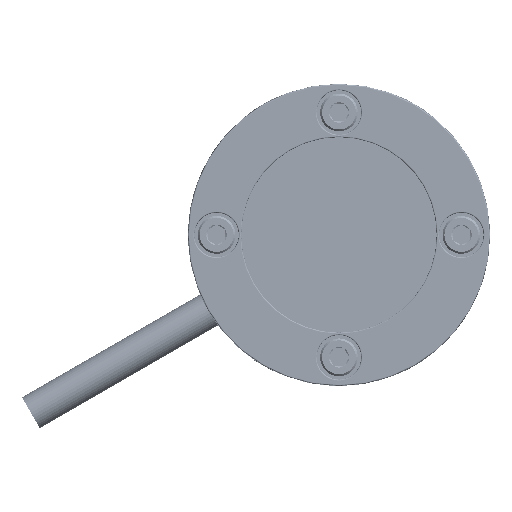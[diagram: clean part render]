
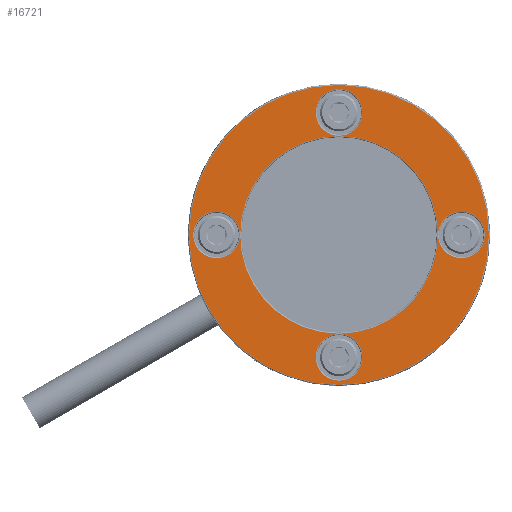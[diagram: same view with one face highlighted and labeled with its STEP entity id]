
A CAD part, left-side view. The second image highlights one B-rep face of the part: STEP entity #16721.
In plain terms, the highlighted planar face has unit normal (-1, 0, 0).
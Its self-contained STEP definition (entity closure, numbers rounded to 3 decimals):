
#1762=FACE_BOUND('',#2999,.T.);
#1763=FACE_BOUND('',#3000,.T.);
#1764=FACE_BOUND('',#3001,.T.);
#1765=FACE_BOUND('',#3002,.T.);
#1766=FACE_BOUND('',#3003,.T.);
#1824=PLANE('',#17884);
#1999=FACE_OUTER_BOUND('',#2998,.T.);
#2998=EDGE_LOOP('',(#10741));
#2999=EDGE_LOOP('',(#10742));
#3000=EDGE_LOOP('',(#10743));
#3001=EDGE_LOOP('',(#10744));
#3002=EDGE_LOOP('',(#10745));
#3003=EDGE_LOOP('',(#10746));
#5737=CIRCLE('',#17883,33.746);
#5738=CIRCLE('',#17885,5.254);
#5739=CIRCLE('',#17886,5.254);
#5740=CIRCLE('',#17887,22.254);
#5741=CIRCLE('',#17888,5.254);
#5742=CIRCLE('',#17889,5.254);
#6145=VERTEX_POINT('',#23261);
#6146=VERTEX_POINT('',#23265);
#6147=VERTEX_POINT('',#23267);
#6148=VERTEX_POINT('',#23269);
#6149=VERTEX_POINT('',#23271);
#6150=VERTEX_POINT('',#23273);
#7953=EDGE_CURVE('',#6145,#6145,#5737,.T.);
#7954=EDGE_CURVE('',#6146,#6146,#5738,.T.);
#7955=EDGE_CURVE('',#6147,#6147,#5739,.T.);
#7956=EDGE_CURVE('',#6148,#6148,#5740,.T.);
#7957=EDGE_CURVE('',#6149,#6149,#5741,.T.);
#7958=EDGE_CURVE('',#6150,#6150,#5742,.T.);
#10741=ORIENTED_EDGE('',*,*,#7953,.F.);
#10742=ORIENTED_EDGE('',*,*,#7954,.F.);
#10743=ORIENTED_EDGE('',*,*,#7955,.F.);
#10744=ORIENTED_EDGE('',*,*,#7956,.F.);
#10745=ORIENTED_EDGE('',*,*,#7957,.F.);
#10746=ORIENTED_EDGE('',*,*,#7958,.F.);
#16721=ADVANCED_FACE('',(#1999,#1762,#1763,#1764,#1765,#1766),#1824,.F.);
#17883=AXIS2_PLACEMENT_3D('',#23263,#19375,#19376);
#17884=AXIS2_PLACEMENT_3D('',#23264,#19377,#19378);
#17885=AXIS2_PLACEMENT_3D('',#23266,#19379,#19380);
#17886=AXIS2_PLACEMENT_3D('',#23268,#19381,#19382);
#17887=AXIS2_PLACEMENT_3D('',#23270,#19383,#19384);
#17888=AXIS2_PLACEMENT_3D('',#23272,#19385,#19386);
#17889=AXIS2_PLACEMENT_3D('',#23274,#19387,#19388);
#19375=DIRECTION('center_axis',(1.,0.,0.));
#19376=DIRECTION('ref_axis',(0.,0.,-1.));
#19377=DIRECTION('center_axis',(1.,0.,0.));
#19378=DIRECTION('ref_axis',(0.,0.,-1.));
#19379=DIRECTION('center_axis',(-1.,0.,0.));
#19380=DIRECTION('ref_axis',(0.,1.,0.));
#19381=DIRECTION('center_axis',(-1.,0.,0.));
#19382=DIRECTION('ref_axis',(0.,1.,0.));
#19383=DIRECTION('center_axis',(-1.,0.,0.));
#19384=DIRECTION('ref_axis',(0.,0.,-1.));
#19385=DIRECTION('center_axis',(-1.,0.,0.));
#19386=DIRECTION('ref_axis',(0.,1.,0.));
#19387=DIRECTION('center_axis',(-1.,0.,0.));
#19388=DIRECTION('ref_axis',(0.,1.,0.));
#23261=CARTESIAN_POINT('',(0.,0.,33.746));
#23263=CARTESIAN_POINT('Origin',(0.,0.,0.));
#23264=CARTESIAN_POINT('Origin',(0.,0.,0.));
#23265=CARTESIAN_POINT('',(0.,0.,-22.305));
#23266=CARTESIAN_POINT('Origin',(0.,0.,-27.559));
#23267=CARTESIAN_POINT('',(0.,27.559,5.254));
#23268=CARTESIAN_POINT('Origin',(0.,27.559,0.));
#23269=CARTESIAN_POINT('',(0.,0.,22.254));
#23270=CARTESIAN_POINT('Origin',(0.,0.,0.));
#23271=CARTESIAN_POINT('',(0.,-27.559,5.254));
#23272=CARTESIAN_POINT('Origin',(0.,-27.559,0.));
#23273=CARTESIAN_POINT('',(0.,0.,32.813));
#23274=CARTESIAN_POINT('Origin',(0.,0.,27.559));
